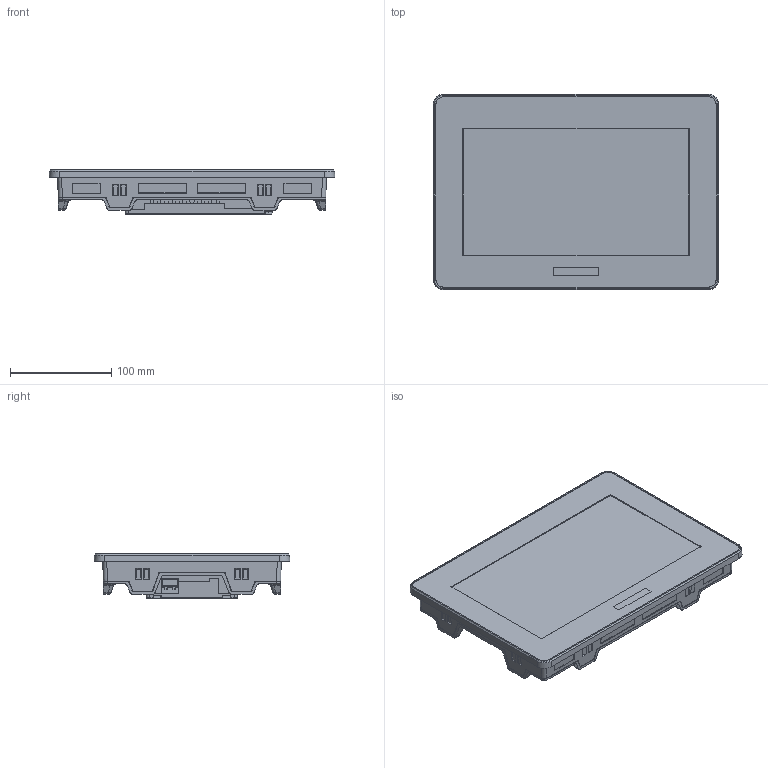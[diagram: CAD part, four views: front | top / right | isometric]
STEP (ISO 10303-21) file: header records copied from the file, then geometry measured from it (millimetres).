
FILE_DESCRIPTION (( 'STEP AP214' ), '1' );
FILE_NAME ('USL-101-xx_3D.STEP', '2020-11-03T08:03:28', ( '' ), ( '' ), 'SwSTEP 2.0', 'SolidWorks 2017', '' );
FILE_SCHEMA (( 'AUTOMOTIVE_DESIGN' ));
Length unit declared in the file: millimetre
Products named in the file (2): USL-101-xx_3D
Bounding box: 282.79 x 193.69 x 44.5 mm (x, y, z)
Volume: 1503098.6 mm3; surface area: 160757.7 mm2
Topology: 1 solids, 4 shells, 2990 faces, 8204 edges, 5416 vertices
Faces by surface type: plane 1815, cone 607, cylinder 342, bspline 173, sphere 31, torus 22
Entity records: 118816 total; most frequent: CARTESIAN_POINT 44305, ORIENTED_EDGE 16404, DIRECTION 14295, EDGE_CURVE 8202, LINE 5639, VECTOR 5639, VERTEX_POINT 5416, AXIS2_PLACEMENT_3D 4328
